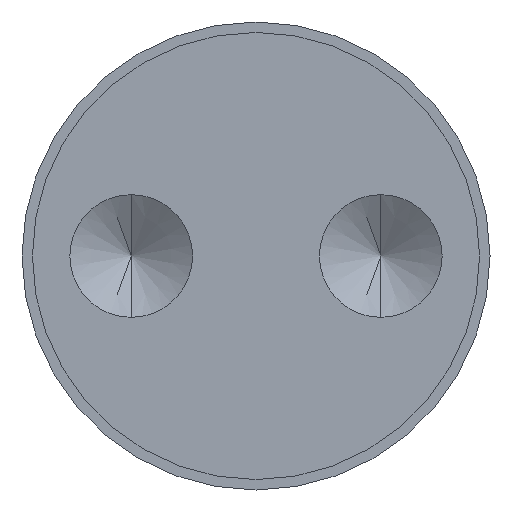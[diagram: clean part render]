
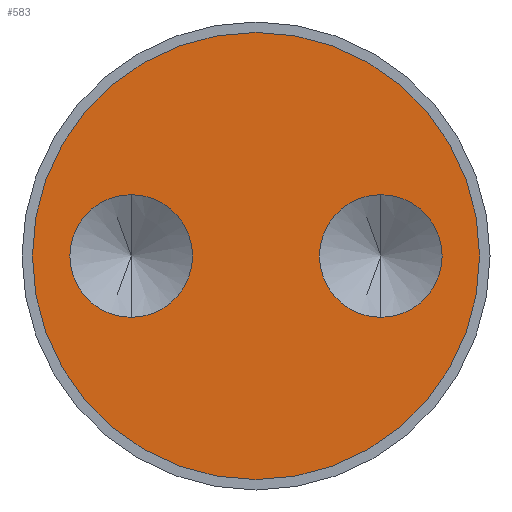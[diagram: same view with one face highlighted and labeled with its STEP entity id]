
A CAD part, front view. The second image highlights one B-rep face of the part: STEP entity #583.
In plain terms, the highlighted planar face has unit normal (0, -1, 0).
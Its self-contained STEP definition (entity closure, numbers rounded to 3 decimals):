
#11 = CARTESIAN_POINT ( 'NONE',  ( 12., 0., 0. ) ) ;
#18 = CARTESIAN_POINT ( 'NONE',  ( 0., 0., 0. ) ) ;
#22 = CARTESIAN_POINT ( 'NONE',  ( -12., 0., -5.9 ) ) ;
#34 = PLANE ( 'NONE',  #656 ) ;
#61 = CIRCLE ( 'NONE', #496, 5.9 ) ;
#71 = CARTESIAN_POINT ( 'NONE',  ( -12., 0., 0. ) ) ;
#97 = EDGE_CURVE ( 'NONE', #336, #671, #694, .T. ) ;
#111 = DIRECTION ( 'NONE',  ( 0., 0., 1. ) ) ;
#113 = DIRECTION ( 'NONE',  ( 0., 1., 0. ) ) ;
#124 = AXIS2_PLACEMENT_3D ( 'NONE', #146, #670, #304 ) ;
#144 = DIRECTION ( 'NONE',  ( 0., -1., 0. ) ) ;
#146 = CARTESIAN_POINT ( 'NONE',  ( 0., 0., 0. ) ) ;
#152 = DIRECTION ( 'NONE',  ( 0., 0., -1. ) ) ;
#160 = DIRECTION ( 'NONE',  ( 0., 0., -1. ) ) ;
#164 = EDGE_CURVE ( 'NONE', #689, #646, #330, .T. ) ;
#201 = FACE_BOUND ( 'NONE', #534, .T. ) ;
#203 = CARTESIAN_POINT ( 'NONE',  ( -12., 0., 0. ) ) ;
#205 = ORIENTED_EDGE ( 'NONE', *, *, #97, .F. ) ;
#213 = CARTESIAN_POINT ( 'NONE',  ( 0., 0., 21.5 ) ) ;
#215 = CARTESIAN_POINT ( 'NONE',  ( -12., 0., 5.9 ) ) ;
#236 = AXIS2_PLACEMENT_3D ( 'NONE', #71, #144, #152 ) ;
#247 = CIRCLE ( 'NONE', #559, 5.9 ) ;
#251 = DIRECTION ( 'NONE',  ( 0., 0., -1. ) ) ;
#288 = CIRCLE ( 'NONE', #914, 5.9 ) ;
#302 = ORIENTED_EDGE ( 'NONE', *, *, #490, .F. ) ;
#304 = DIRECTION ( 'NONE',  ( 0., 0., 1. ) ) ;
#309 = EDGE_CURVE ( 'NONE', #367, #800, #61, .T. ) ;
#320 = CARTESIAN_POINT ( 'NONE',  ( 12., 0., 0. ) ) ;
#330 = CIRCLE ( 'NONE', #236, 5.9 ) ;
#336 = VERTEX_POINT ( 'NONE', #829 ) ;
#345 = DIRECTION ( 'NONE',  ( 0., 1., 0. ) ) ;
#367 = VERTEX_POINT ( 'NONE', #838 ) ;
#375 = EDGE_LOOP ( 'NONE', ( #302, #905 ) ) ;
#392 = EDGE_CURVE ( 'NONE', #800, #367, #288, .T. ) ;
#401 = CIRCLE ( 'NONE', #604, 21.5 ) ;
#412 = DIRECTION ( 'NONE',  ( 0., -1., 0. ) ) ;
#418 = DIRECTION ( 'NONE',  ( 0., 0., 1. ) ) ;
#443 = DIRECTION ( 'NONE',  ( 0., -1., 0. ) ) ;
#484 = CARTESIAN_POINT ( 'NONE',  ( 0., 0., 0. ) ) ;
#490 = EDGE_CURVE ( 'NONE', #646, #689, #247, .T. ) ;
#492 = ORIENTED_EDGE ( 'NONE', *, *, #309, .F. ) ;
#496 = AXIS2_PLACEMENT_3D ( 'NONE', #320, #824, #160 ) ;
#534 = EDGE_LOOP ( 'NONE', ( #492, #790 ) ) ;
#559 = AXIS2_PLACEMENT_3D ( 'NONE', #203, #443, #882 ) ;
#568 = ORIENTED_EDGE ( 'NONE', *, *, #570, .F. ) ;
#570 = EDGE_CURVE ( 'NONE', #671, #336, #401, .T. ) ;
#583 = ADVANCED_FACE ( 'NONE', ( #201, #953, #593 ), #34, .F. ) ;
#593 = FACE_OUTER_BOUND ( 'NONE', #760, .T. ) ;
#604 = AXIS2_PLACEMENT_3D ( 'NONE', #484, #113, #418 ) ;
#646 = VERTEX_POINT ( 'NONE', #22 ) ;
#656 = AXIS2_PLACEMENT_3D ( 'NONE', #18, #345, #111 ) ;
#670 = DIRECTION ( 'NONE',  ( 0., 1., 0. ) ) ;
#671 = VERTEX_POINT ( 'NONE', #213 ) ;
#689 = VERTEX_POINT ( 'NONE', #215 ) ;
#694 = CIRCLE ( 'NONE', #124, 21.5 ) ;
#760 = EDGE_LOOP ( 'NONE', ( #205, #568 ) ) ;
#790 = ORIENTED_EDGE ( 'NONE', *, *, #392, .F. ) ;
#800 = VERTEX_POINT ( 'NONE', #890 ) ;
#824 = DIRECTION ( 'NONE',  ( 0., -1., 0. ) ) ;
#829 = CARTESIAN_POINT ( 'NONE',  ( 0., 0., -21.5 ) ) ;
#838 = CARTESIAN_POINT ( 'NONE',  ( 12., 0., -5.9 ) ) ;
#882 = DIRECTION ( 'NONE',  ( 0., 0., -1. ) ) ;
#890 = CARTESIAN_POINT ( 'NONE',  ( 12., 0., 5.9 ) ) ;
#905 = ORIENTED_EDGE ( 'NONE', *, *, #164, .F. ) ;
#914 = AXIS2_PLACEMENT_3D ( 'NONE', #11, #412, #251 ) ;
#953 = FACE_BOUND ( 'NONE', #375, .T. ) ;
